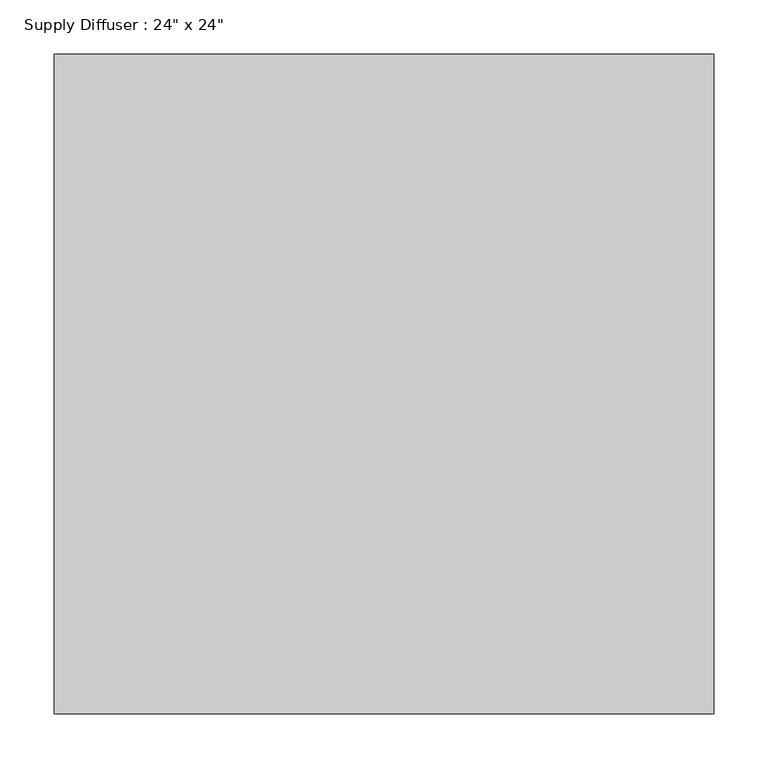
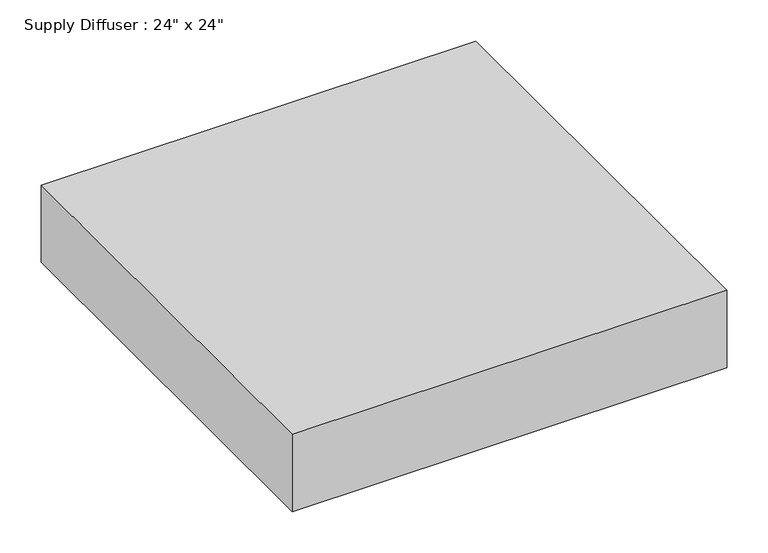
"""IFC4 building model written with IfcOpenShell, lengths in millimetres: proxy geometry."""

from ifc_helpers import new_model, si_unit, frame, origin, place, context, project, spatial, polyline, outline, extrude, source, transform, mapped, element, save


def proxy_f1a204da(model_context):
    return source(origin(), model_context, "Body", "SweptSolid", [
        extrude(outline(polyline([(304.8, -304.8), (-304.8, -304.8), (-304.8, 304.8), (304.8, 304.8), (304.8, -304.8)])), frame((0.0, 0.0, 2438.4), z_axis=(0.0, 0.0, 1.0), x_axis=(1.0, 0.0, 0.0)), (0.0, 0.0, 1.0), 114.3),
    ])


if __name__ == "__main__":
    model = new_model("IFC4")
    model_context = context("Model", 3, world=origin())
    ifc_project = project(units=[si_unit("LENGTHUNIT", "METRE", prefix="MILLI")], contexts=[model_context])
    site = spatial("IfcSite", under=ifc_project)
    building = spatial("IfcBuilding", under=site)
    placement = place(None, origin())
    proxy_shape = proxy_f1a204da(model_context)
    element("IfcBuildingElementProxy", 1, Name="Supply Diffuser : 24\" x 24\"", ObjectType="Supply Diffuser : 24\" x 24\"", at=placement, inside=building, context=model_context, shape_type="MappedRepresentation", body=[
        mapped(proxy_shape, transform((0.0, 0.0, 0.0), x_axis=(1.0, 0.0, 0.0), y_axis=(0.0, 1.0, 0.0), z_axis=(0.0, 0.0, 1.0))),
    ])
    save(model, "model.ifc")
